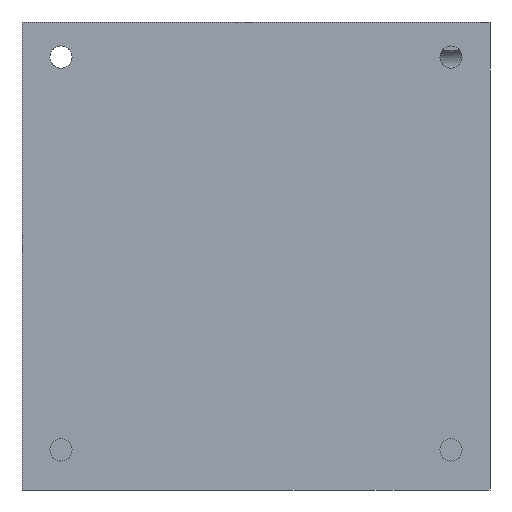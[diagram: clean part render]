
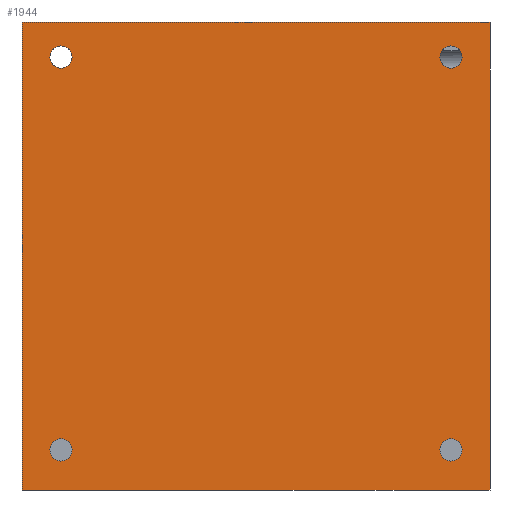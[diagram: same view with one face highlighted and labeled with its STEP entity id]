
A CAD part, left-side view. The second image highlights one B-rep face of the part: STEP entity #1944.
In plain terms, the highlighted planar face has unit normal (-1, 0, 0).
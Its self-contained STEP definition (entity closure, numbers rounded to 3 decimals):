
#57=FACE_BOUND('',#367,.T.);
#58=FACE_BOUND('',#368,.T.);
#59=FACE_BOUND('',#369,.T.);
#60=FACE_BOUND('',#370,.T.);
#116=PLANE('',#2134);
#226=FACE_OUTER_BOUND('',#366,.T.);
#366=EDGE_LOOP('',(#1785,#1786,#1787,#1788));
#367=EDGE_LOOP('',(#1789));
#368=EDGE_LOOP('',(#1790));
#369=EDGE_LOOP('',(#1791));
#370=EDGE_LOOP('',(#1792));
#468=LINE('',#3026,#616);
#527=LINE('',#3721,#675);
#531=LINE('',#3787,#679);
#546=LINE('',#3839,#694);
#616=VECTOR('',#2370,10.);
#675=VECTOR('',#2513,10.);
#679=VECTOR('',#2531,10.);
#694=VECTOR('',#2598,10.);
#739=CIRCLE('',#2011,1.);
#780=CIRCLE('',#2103,1.);
#781=CIRCLE('',#2105,1.);
#782=CIRCLE('',#2107,1.);
#849=VERTEX_POINT('',#2924);
#879=VERTEX_POINT('',#3023);
#880=VERTEX_POINT('',#3025);
#944=VERTEX_POINT('',#3719);
#949=VERTEX_POINT('',#3786);
#958=VERTEX_POINT('',#3827);
#959=VERTEX_POINT('',#3831);
#960=VERTEX_POINT('',#3835);
#1048=EDGE_CURVE('',#849,#849,#739,.T.);
#1090=EDGE_CURVE('',#880,#879,#468,.T.);
#1189=EDGE_CURVE('',#879,#944,#527,.T.);
#1200=EDGE_CURVE('',#949,#880,#531,.T.);
#1218=EDGE_CURVE('',#958,#958,#780,.T.);
#1220=EDGE_CURVE('',#959,#959,#781,.T.);
#1222=EDGE_CURVE('',#960,#960,#782,.T.);
#1224=EDGE_CURVE('',#944,#949,#546,.T.);
#1785=ORIENTED_EDGE('',*,*,#1189,.T.);
#1786=ORIENTED_EDGE('',*,*,#1224,.T.);
#1787=ORIENTED_EDGE('',*,*,#1200,.T.);
#1788=ORIENTED_EDGE('',*,*,#1090,.T.);
#1789=ORIENTED_EDGE('',*,*,#1048,.T.);
#1790=ORIENTED_EDGE('',*,*,#1218,.T.);
#1791=ORIENTED_EDGE('',*,*,#1220,.T.);
#1792=ORIENTED_EDGE('',*,*,#1222,.T.);
#1944=ADVANCED_FACE('',(#226,#57,#58,#59,#60),#116,.T.);
#2011=AXIS2_PLACEMENT_3D('',#2925,#2297,#2298);
#2103=AXIS2_PLACEMENT_3D('',#3828,#2583,#2584);
#2105=AXIS2_PLACEMENT_3D('',#3832,#2588,#2589);
#2107=AXIS2_PLACEMENT_3D('',#3836,#2593,#2594);
#2134=AXIS2_PLACEMENT_3D('',#3885,#2659,#2660);
#2297=DIRECTION('center_axis',(1.,0.,0.));
#2298=DIRECTION('ref_axis',(0.,1.,0.));
#2370=DIRECTION('',(0.,-1.,0.));
#2513=DIRECTION('',(0.,0.,1.));
#2531=DIRECTION('',(0.,0.,-1.));
#2583=DIRECTION('center_axis',(1.,0.,0.));
#2584=DIRECTION('ref_axis',(0.,1.,0.));
#2588=DIRECTION('center_axis',(1.,0.,0.));
#2589=DIRECTION('ref_axis',(0.,1.,0.));
#2593=DIRECTION('center_axis',(1.,0.,0.));
#2594=DIRECTION('ref_axis',(0.,1.,0.));
#2598=DIRECTION('',(0.,1.,0.));
#2659=DIRECTION('center_axis',(-1.,0.,0.));
#2660=DIRECTION('ref_axis',(0.,0.,1.));
#2924=CARTESIAN_POINT('',(-20.5,-18.,38.85));
#2925=CARTESIAN_POINT('Origin',(-20.5,-17.,38.85));
#3023=CARTESIAN_POINT('',(-20.5,-20.5,0.));
#3025=CARTESIAN_POINT('',(-20.5,21.5,0.));
#3026=CARTESIAN_POINT('',(-20.5,-20.5,0.));
#3719=CARTESIAN_POINT('',(-20.5,-20.5,42.));
#3721=CARTESIAN_POINT('',(-20.5,-20.5,42.));
#3786=CARTESIAN_POINT('',(-20.5,21.5,42.));
#3787=CARTESIAN_POINT('',(-20.5,21.5,0.));
#3827=CARTESIAN_POINT('',(-20.5,17.,3.6));
#3828=CARTESIAN_POINT('Origin',(-20.5,18.,3.6));
#3831=CARTESIAN_POINT('',(-20.5,-18.,3.6));
#3832=CARTESIAN_POINT('Origin',(-20.5,-17.,3.6));
#3835=CARTESIAN_POINT('',(-20.5,17.,38.85));
#3836=CARTESIAN_POINT('Origin',(-20.5,18.,38.85));
#3839=CARTESIAN_POINT('',(-20.5,21.5,42.));
#3885=CARTESIAN_POINT('Origin',(-20.5,0.5,21.));
